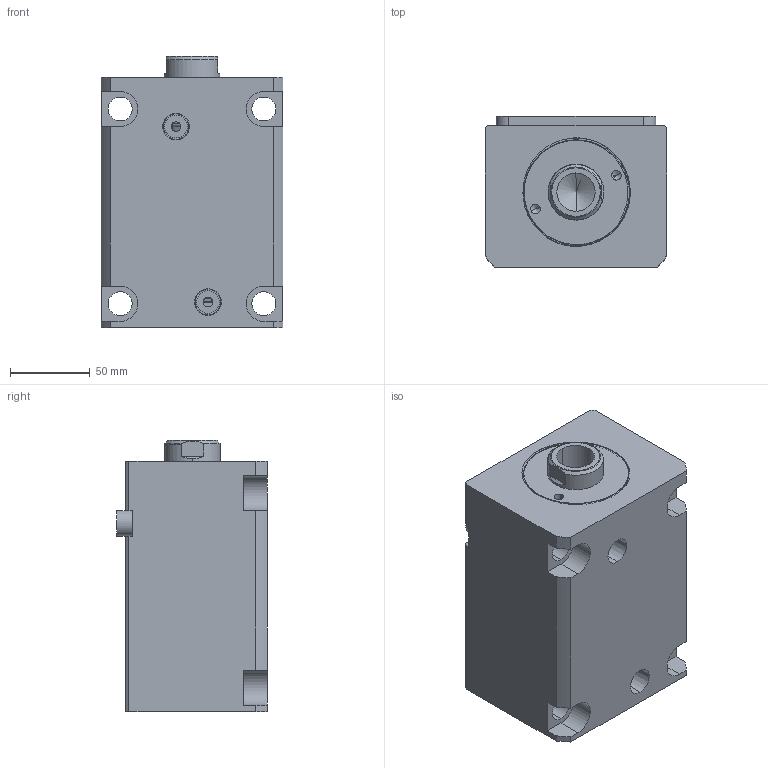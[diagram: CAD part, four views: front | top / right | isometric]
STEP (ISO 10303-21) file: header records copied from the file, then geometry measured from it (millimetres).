
FILE_DESCRIPTION (( 'STEP AP214' ), '1' );
FILE_NAME ('chtb-la63x90n_asm.STEP', '2018-05-02T04:04:36', ( 'Windows' ), ( 'Microsoft' ), 'SwSTEP 2.0', 'SolidWorks 2015', '' );
FILE_SCHEMA (( 'AUTOMOTIVE_DESIGN' ));
Length unit declared in the file: millimetre
Products named in the file (5): CHTB63X90NHSG; CHTB-LA63PJ; CHTB-63QG; CHTB-LA63X90NBT; chtb-la63x90n_asm
Assembly tree (4 placements, depth 2):
  chtb-la63x90n_asm
    CHTB-LA63X90NBT
    CHTB-63QG
    CHTB-LA63PJ
    CHTB63X90NHSG
Bounding box: 114 x 94.5 x 170 mm (x, y, z)
Volume: 1319709.9 mm3; surface area: 180350.1 mm2
Topology: 4 solids, 4 shells, 174 faces, 510 edges, 348 vertices
Faces by surface type: cylinder 98, plane 45, cone 12, bspline 12, torus 7
Entity records: 18199 total; most frequent: CARTESIAN_POINT 13678, ORIENTED_EDGE 1008, DIRECTION 778, EDGE_CURVE 504, VERTEX_POINT 348, AXIS2_PLACEMENT_3D 295, EDGE_LOOP 198, VECTOR 188
